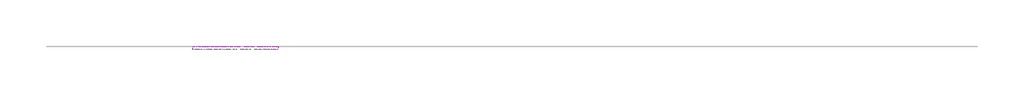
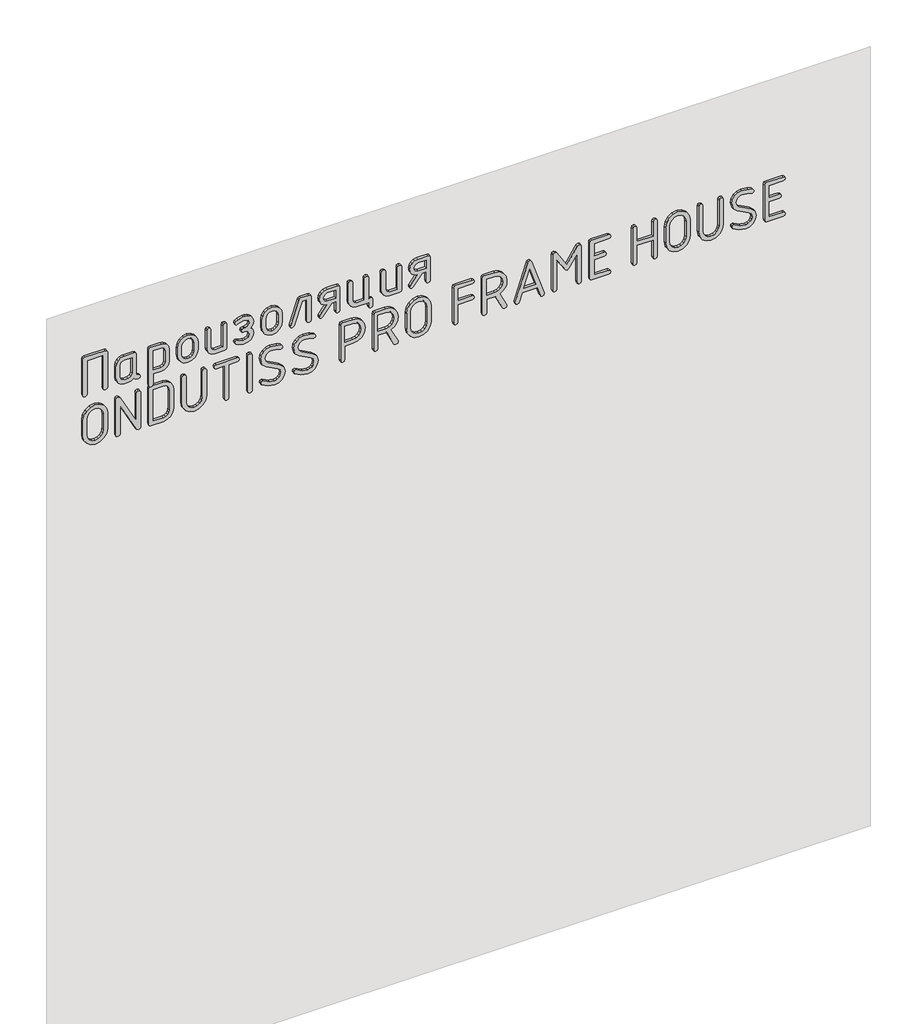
# One storey, part 29 of 42: 1 proxy.
"""IFC4 building model written with IfcOpenShell, lengths in millimetres."""

from ifc_helpers import new_model, si_unit, frame, origin, place, context, project, spatial, polyline, outline, extrude, element, save

model = new_model("IFC4")

# Units and contexts
model_context = context("Model", 3, world=origin())
ifc_project = project(units=[si_unit("LENGTHUNIT", "METRE", prefix="MILLI")], contexts=[model_context])

# Site, building, storey
site = spatial("IfcSite", under=ifc_project)
building = spatial("IfcBuilding", under=site)
storey = spatial("IfcBuildingStorey", under=building, Name="Этаж 01", Elevation=0.0)

# Proxy
placement = place(None, origin())
element("IfcBuildingElementProxy", 1, Name="150 мм GOST Common", ObjectType="150 мм GOST Common", at=placement, inside=storey, context=model_context, shape_type="SweptSolid", body=[
    extrude(outline(polyline([(2813.534126, -10703.1472358), (2811.6464128, -10708.750448), (2805.9832732, -10710.6181854), (2670.2277293, -10710.6181854), (2664.5645897, -10708.7005085), (2662.6768765, -10702.9474778), (2664.5546018, -10697.1944471), (2670.1877777, -10695.2767702), (2798.1927108, -10695.2767702), (2798.1927108, -10636.468012), (2670.1877777, -10636.468012), (2664.5546018, -10634.5503351), (2662.6768765, -10628.7973044), (2664.5645897, -10623.0442737), (2670.2277293, -10621.1265968), (2805.9832732, -10621.1265968), (2811.6464128, -10622.9943342), (2813.534126, -10628.5975464), (2813.534126, -10703.1472358)])), frame((0.0, -27838.3929597, 0.0), z_axis=(0.0, 1.0, 0.0), x_axis=(0.0, 0.0, 1.0)), (0.0, 0.0, 1.0), 10.0),
    extrude(outline(polyline([(2670.1478261, -10501.3117421), (2675.781002, -10503.1844735), (2677.6587273, -10508.8026675), (2679.5264647, -10514.4208616), (2685.1296769, -10516.2935929), (2760.0389308, -10516.2935929), (2765.642143, -10518.1513424), (2767.5098804, -10523.7245909), (2767.5098804, -10560.7996776), (2765.342506, -10572.2957511), (2758.8403827, -10581.8541719), (2749.1820829, -10588.2963678), (2737.5461788, -10590.4437664), (2692.6405781, -10590.4437664), (2681.004674, -10588.2963678), (2671.3463742, -10581.8541719), (2664.8442509, -10572.2957511), (2662.6768765, -10560.7996776), (2662.6768765, -10545.9376817), (2664.6644687, -10534.960979), (2670.6272453, -10525.8420258), (2664.6644687, -10518.2612093), (2662.6768765, -10508.7826917), (2664.5446139, -10503.1794795), (2670.1478261, -10501.3117421)]), holes=[polyline([(2752.1684652, -10531.6350081), (2692.8403361, -10531.6350081), (2682.3530405, -10535.8698779), (2678.0182917, -10546.1374397), (2678.0182917, -10560.5999196), (2682.3929921, -10570.8275298), (2692.8403361, -10575.1023512), (2737.3464208, -10575.1023512), (2747.8337163, -10570.8674814), (2752.1684652, -10560.5999196), (2752.1684652, -10531.6350081)])]), frame((0.0, -27838.3929597, 0.0), z_axis=(0.0, 1.0, 0.0), x_axis=(0.0, 0.0, 1.0)), (0.0, 0.0, 1.0), 10.0),
    extrude(outline(polyline([(2759.9590276, -10470.2693473), (2624.2034837, -10470.2693473), (2618.5403441, -10468.3516704), (2616.6526309, -10462.5986397), (2618.5703078, -10456.845609), (2624.3233385, -10454.9279321), (2662.6768765, -10454.9279321), (2662.6768765, -10425.523553), (2664.8592328, -10414.1323525), (2671.4063016, -10404.6488409), (2681.0795832, -10398.2515906), (2692.6405781, -10396.1191739), (2737.5461788, -10396.1191739), (2749.1820829, -10398.2665725), (2758.8403827, -10404.7087683), (2765.342506, -10414.2671891), (2767.5098804, -10425.7632626), (2767.5098804, -10462.8383493), (2765.6221672, -10468.4115978), (2759.9590276, -10470.2693473)]), holes=[polyline([(2752.1684652, -10454.9279321), (2752.1684652, -10425.9630206), (2747.8936437, -10415.6355315), (2737.3464208, -10411.4605891), (2692.8403361, -10411.4605891), (2682.3530405, -10415.6954589), (2678.0182917, -10425.9630206), (2678.0182917, -10454.9279321), (2752.1684652, -10454.9279321)])]), frame((0.0, -27838.3929597, 0.0), z_axis=(0.0, 1.0, 0.0), x_axis=(0.0, 0.0, 1.0)), (0.0, 0.0, 1.0), 10.0),
    extrude(outline(polyline([(2700.1115277, -10365.4363435), (2685.718963, -10362.7246285), (2673.6236155, -10354.5894835), (2665.4135613, -10342.6089968), (2662.6768765, -10328.3612568), (2665.4135613, -10314.1135167), (2673.6236155, -10302.13303), (2685.718963, -10293.997885), (2700.1115277, -10291.28617), (2730.0752292, -10291.28617), (2744.6176124, -10293.9679213), (2756.6829962, -10302.0131752), (2764.8031593, -10313.9636982), (2767.5098804, -10328.3612568), (2764.7731956, -10342.6089968), (2756.5631414, -10354.5894835), (2744.4677939, -10362.7246285), (2730.0752292, -10365.4363435), (2700.1115277, -10365.4363435)]), holes=[polyline([(2700.5509953, -10306.6275852), (2691.8914855, -10308.2206554), (2684.6103061, -10312.9998658), (2679.6662953, -10320.0263538), (2678.0182917, -10328.3612568), (2679.6563074, -10336.771069), (2684.5703545, -10343.7825752), (2691.841546, -10348.51684), (2700.5509953, -10350.0949283), (2730.5546484, -10350.0949283), (2739.1841945, -10348.5018582), (2746.4553861, -10343.7226478), (2751.3993968, -10336.6961597), (2753.0474004, -10328.3612568), (2751.3993968, -10320.0263538), (2746.4553861, -10312.9998658), (2739.1841945, -10308.2206554), (2730.5546484, -10306.6275852), (2700.5509953, -10306.6275852)])]), frame((0.0, -27838.3929597, 0.0), z_axis=(0.0, 1.0, 0.0), x_axis=(0.0, 0.0, 1.0)), (0.0, 0.0, 1.0), 10.0),
    extrude(outline(polyline([(2760.0389308, -10186.4531662), (2765.642143, -10188.3708431), (2767.5098804, -10194.1238738), (2765.642143, -10199.8769045), (2760.0389308, -10201.7945814), (2678.0182917, -10201.7945814), (2678.0182917, -10230.7594929), (2682.4329437, -10240.987103), (2692.9202393, -10245.2619244), (2760.0389308, -10245.2619244), (2765.642143, -10247.1796013), (2767.5098804, -10252.932632), (2765.642143, -10258.6856627), (2760.0389308, -10260.6033396), (2692.6405781, -10260.6033396), (2681.004674, -10258.455941), (2671.3463742, -10252.0137452), (2664.8442509, -10242.4553244), (2662.6768765, -10230.9592509), (2662.6768765, -10193.8841642), (2664.5446139, -10188.3109157), (2670.1478261, -10186.4531662), (2760.0389308, -10186.4531662)])), frame((0.0, -27838.3929597, 0.0), z_axis=(0.0, 1.0, 0.0), x_axis=(0.0, 0.0, 1.0)), (0.0, 0.0, 1.0), 10.0),
    extrude(outline(polyline([(2693.3996585, -10104.6322851), (2682.5128469, -10109.0069856), (2678.0182917, -10119.6540875), (2678.0182917, -10127.1649887), (2681.8336697, -10142.2067669), (2685.6490477, -10151.335708), (2682.9323388, -10155.450723), (2677.6587273, -10157.1686419), (2671.7059386, -10154.1223322), (2666.6320851, -10144.9834032), (2662.6768765, -10127.1649887), (2662.6768765, -10119.6540875), (2664.8991844, -10107.9682439), (2671.566108, -10098.1601256), (2681.4591234, -10091.5081838), (2693.3597069, -10089.2908699), (2707.1829612, -10091.9376636), (2716.3718297, -10099.8780445), (2725.0113637, -10091.9376636), (2738.3052592, -10089.2908699), (2749.6215505, -10091.5081838), (2759.0401407, -10098.1601256), (2765.3924455, -10107.9682439), (2767.5098804, -10119.6540875), (2767.5098804, -10127.1649887), (2763.434817, -10144.8635484), (2758.2710724, -10154.0923685), (2752.5280296, -10157.1686419), (2747.2743939, -10155.450723), (2744.5377092, -10151.4555628), (2748.3530872, -10142.5463555), (2752.1684652, -10127.1649887), (2752.1684652, -10119.6540875), (2748.1133776, -10108.967034), (2738.1055012, -10104.6322851), (2728.0976249, -10108.6673969), (2724.0425373, -10120.3332647), (2724.0425373, -10122.7303609), (2724.0425373, -10125.0076022), (2721.7852718, -10132.4186244), (2716.3318781, -10134.6359383), (2710.8984602, -10132.4785518), (2708.7011221, -10127.1649887), (2708.7011221, -10117.496701), (2704.7459135, -10108.6274453), (2693.3996585, -10104.6322851)])), frame((0.0, -27838.3929597, 0.0), z_axis=(0.0, 1.0, 0.0), x_axis=(0.0, 0.0, 1.0)), (0.0, 0.0, 1.0), 10.0),
    extrude(outline(polyline([(2700.1115277, -10058.6080395), (2685.718963, -10055.8963245), (2673.6236155, -10047.7611796), (2665.4135613, -10035.7806929), (2662.6768765, -10021.5329528), (2665.4135613, -10007.2852127), (2673.6236155, -9995.304726), (2685.718963, -9987.1695811), (2700.1115277, -9984.4578661), (2730.0752292, -9984.4578661), (2744.6176124, -9987.1396174), (2756.6829962, -9995.1848712), (2764.8031593, -10007.1353942), (2767.5098804, -10021.5329528), (2764.7731956, -10035.7806929), (2756.5631414, -10047.7611796), (2744.4677939, -10055.8963245), (2730.0752292, -10058.6080395), (2700.1115277, -10058.6080395)]), holes=[polyline([(2700.5509953, -9999.7992813), (2691.8914855, -10001.3923514), (2684.6103061, -10006.1715618), (2679.6662953, -10013.1980498), (2678.0182917, -10021.5329528), (2679.6563074, -10029.942765), (2684.5703545, -10036.9542712), (2691.841546, -10041.6885361), (2700.5509953, -10043.2666243), (2730.5546484, -10043.2666243), (2739.1841945, -10041.6735542), (2746.4553861, -10036.8943438), (2751.3993968, -10029.8678558), (2753.0474004, -10021.5329528), (2751.3993968, -10013.1980498), (2746.4553861, -10006.1715618), (2739.1841945, -10001.3923514), (2730.5546484, -9999.7992813), (2700.5509953, -9999.7992813)])]), frame((0.0, -27838.3929597, 0.0), z_axis=(0.0, 1.0, 0.0), x_axis=(0.0, 0.0, 1.0)), (0.0, 0.0, 1.0), 10.0),
    extrude(outline(polyline([(2767.5098804, -9917.4590294), (2765.9817316, -9922.0534636), (2761.3972852, -9924.9699306), (2672.5449222, -9954.6140193), (2670.2676809, -9954.9735837), (2664.5745776, -9953.0958584), (2662.6768765, -9947.4626826), (2667.75073, -9940.391249), (2752.1684652, -9912.1055147), (2752.1684652, -9894.9662774), (2670.1478261, -9894.9662774), (2664.5446139, -9893.0486005), (2662.6768765, -9887.2955698), (2664.5446139, -9881.5425391), (2670.1478261, -9879.6248622), (2760.0389308, -9879.6248622), (2765.642143, -9881.5425391), (2767.5098804, -9887.2955698), (2767.5098804, -9917.4590294)])), frame((0.0, -27838.3929597, 0.0), z_axis=(0.0, 1.0, 0.0), x_axis=(0.0, 0.0, 1.0)), (0.0, 0.0, 1.0), 10.0),
    extrude(outline(polyline([(2707.8221869, -9823.4129581), (2674.7023087, -9848.6623706), (2670.1478261, -9850.1405799), (2664.5446139, -9848.2628546), (2662.6768765, -9842.6296787), (2665.7531499, -9836.5969868), (2707.6623805, -9805.354834), (2707.6623805, -9790.1332736), (2670.1877777, -9790.1332736), (2664.5546018, -9788.2155967), (2662.6768765, -9782.462566), (2664.5446139, -9776.7095353), (2670.1478261, -9774.7918584), (2760.0389308, -9774.7918584), (2765.642143, -9776.7095353), (2767.5098804, -9782.462566), (2767.5098804, -9820.1369267), (2765.342506, -9831.752855), (2758.8403827, -9841.4311306), (2749.1820829, -9847.9632176), (2737.5461788, -9850.1405799), (2726.784216, -9848.2478727), (2717.5903536, -9842.5697513), (2710.9434058, -9833.9951387), (2707.8221869, -9823.4129581)]), holes=[polyline([(2737.1466628, -9835.1187775), (2747.7937647, -9830.7440771), (2752.1684652, -9820.1369267), (2752.1684652, -9790.1332736), (2722.164812, -9790.1332736), (2722.164812, -9820.1369267), (2726.5994398, -9830.6841497), (2737.1466628, -9835.1187775)])]), frame((0.0, -27838.3929597, 0.0), z_axis=(0.0, 1.0, 0.0), x_axis=(0.0, 0.0, 1.0)), (0.0, 0.0, 1.0), 10.0),
    extrude(outline(polyline([(2678.0182917, -9662.2881469), (2678.0182917, -9669.9588545), (2760.0389308, -9669.9588545), (2765.642143, -9671.8765314), (2767.5098804, -9677.6295621), (2765.642143, -9683.3825928), (2760.0389308, -9685.3002697), (2678.0182917, -9685.3002697), (2678.0182917, -9714.2651812), (2682.4329437, -9724.4927914), (2692.9202393, -9728.7676128), (2760.0389308, -9728.7676128), (2765.642143, -9730.6852897), (2767.5098804, -9736.4383204), (2765.642143, -9742.1913511), (2760.0389308, -9744.109028), (2692.6405781, -9744.109028), (2681.0795832, -9741.9616294), (2671.4063016, -9735.5194335), (2664.8592328, -9725.9610127), (2662.6768765, -9714.4649392), (2662.6768765, -9669.9588545), (2647.3354613, -9669.9588545), (2641.5824306, -9668.0411776), (2639.6647537, -9662.2881469), (2641.5824306, -9656.5351162), (2647.3354613, -9654.6174393), (2670.3475841, -9654.6174393), (2676.1006148, -9656.5351162), (2678.0182917, -9662.2881469)])), frame((0.0, -27838.3929597, 0.0), z_axis=(0.0, 1.0, 0.0), x_axis=(0.0, 0.0, 1.0)), (0.0, 0.0, 1.0), 10.0),
    extrude(outline(polyline([(2760.0389308, -9549.7844355), (2765.642143, -9551.7021124), (2767.5098804, -9557.4551431), (2765.642143, -9563.2081738), (2760.0389308, -9565.1258507), (2678.0182917, -9565.1258507), (2678.0182917, -9594.0907622), (2682.4329437, -9604.3183723), (2692.9202393, -9608.5931937), (2760.0389308, -9608.5931937), (2765.642143, -9610.5108706), (2767.5098804, -9616.2639013), (2765.642143, -9622.016932), (2760.0389308, -9623.9346089), (2692.6405781, -9623.9346089), (2681.004674, -9621.7872103), (2671.3463742, -9615.3450145), (2664.8442509, -9605.7865937), (2662.6768765, -9594.2905202), (2662.6768765, -9557.2154335), (2664.5446139, -9551.642185), (2670.1478261, -9549.7844355), (2760.0389308, -9549.7844355)])), frame((0.0, -27838.3929597, 0.0), z_axis=(0.0, 1.0, 0.0), x_axis=(0.0, 0.0, 1.0)), (0.0, 0.0, 1.0), 10.0),
    extrude(outline(polyline([(2707.8221869, -9493.5725314), (2674.7023087, -9518.8219439), (2670.1478261, -9520.3001532), (2664.5446139, -9518.4224279), (2662.6768765, -9512.789252), (2665.7531499, -9506.75656), (2707.6623805, -9475.5144072), (2707.6623805, -9460.2928468), (2670.1877777, -9460.2928468), (2664.5546018, -9458.3751699), (2662.6768765, -9452.6221392), (2664.5446139, -9446.8691085), (2670.1478261, -9444.9514316), (2760.0389308, -9444.9514316), (2765.642143, -9446.8691085), (2767.5098804, -9452.6221392), (2767.5098804, -9490.2965), (2765.342506, -9501.9124283), (2758.8403827, -9511.5907039), (2749.1820829, -9518.1227908), (2737.5461788, -9520.3001532), (2726.784216, -9518.407446), (2717.5903536, -9512.7293246), (2710.9434058, -9504.154712), (2707.8221869, -9493.5725314)]), holes=[polyline([(2737.1466628, -9505.2783508), (2747.7937647, -9500.9036503), (2752.1684652, -9490.2965), (2752.1684652, -9460.2928468), (2722.164812, -9460.2928468), (2722.164812, -9490.2965), (2726.5994398, -9500.8437229), (2737.1466628, -9505.2783508)])]), frame((0.0, -27838.3929597, 0.0), z_axis=(0.0, 1.0, 0.0), x_axis=(0.0, 0.0, 1.0)), (0.0, 0.0, 1.0), 10.0),
    extrude(outline(polyline([(2511.9177961, -10621.1265968), (2572.2447152, -10621.1265968), (2589.6885835, -10624.3876463), (2604.3058759, -10634.1707949), (2614.2088792, -10648.618293), (2617.5098804, -10665.8723911), (2614.1938974, -10683.05158), (2604.2459485, -10697.5140599), (2589.6136742, -10707.3421541), (2572.2447152, -10710.6181854), (2511.9177961, -10710.6181854), (2494.5488371, -10707.3421541), (2479.9165628, -10697.5140599), (2469.9686139, -10683.05158), (2466.6526309, -10665.8723911), (2469.9686139, -10648.6932022), (2479.9165628, -10634.2307223), (2494.5488371, -10624.4026281), (2511.9177961, -10621.1265968)]), holes=[polyline([(2512.0376509, -10636.468012), (2500.3917589, -10638.6004287), (2490.7034954, -10644.997679), (2484.1714084, -10654.4811906), (2481.9940461, -10665.8723911), (2484.1714084, -10677.2635916), (2490.7034954, -10686.7471032), (2500.3917589, -10693.1443535), (2512.0376509, -10695.2767702), (2572.1248604, -10695.2767702), (2583.7707524, -10693.1443535), (2593.4590159, -10686.7471032), (2599.9911029, -10677.2635916), (2602.1684652, -10665.8723911), (2599.9911029, -10654.4811906), (2593.4590159, -10644.997679), (2583.7707524, -10638.6004287), (2572.1248604, -10636.468012), (2512.0376509, -10636.468012)])]), frame((0.0, -27838.3929597, 0.0), z_axis=(0.0, 1.0, 0.0), x_axis=(0.0, 0.0, 1.0)), (0.0, 0.0, 1.0), 10.0),
    extrude(outline(polyline([(2503.3282016, -10516.2935929), (2613.0353009, -10575.1023512), (2617.5098804, -10582.453446), (2615.6221672, -10588.4461863), (2609.9590276, -10590.4437664), (2474.2034837, -10590.4437664), (2468.5403441, -10588.5260895), (2466.6526309, -10582.7730588), (2468.5403441, -10577.0200281), (2474.2034837, -10575.1023512), (2580.9541645, -10575.1023512), (2470.4080815, -10516.2935929), (2466.6526309, -10509.1023046), (2468.5403441, -10502.9897094), (2474.2034837, -10500.9521777), (2609.9590276, -10500.9521777), (2615.6221672, -10502.8698546), (2617.5098804, -10508.6228853), (2615.6221672, -10514.375916), (2609.9590276, -10516.2935929), (2503.3282016, -10516.2935929)])), frame((0.0, -27838.3929597, 0.0), z_axis=(0.0, 1.0, 0.0), x_axis=(0.0, 0.0, 1.0)), (0.0, 0.0, 1.0), 10.0),
    extrude(outline(polyline([(2609.9590276, -10470.2693473), (2474.2034837, -10470.2693473), (2468.5403441, -10468.4016099), (2466.6526309, -10462.7983977), (2466.6526309, -10418.0526034), (2469.4092915, -10403.7299541), (2477.6792731, -10391.684546), (2489.8645117, -10383.5044555), (2504.3669433, -10380.7777587), (2579.795568, -10380.7777587), (2594.4478181, -10383.4744918), (2606.603093, -10391.5646912), (2614.7831835, -10403.5801356), (2617.5098804, -10418.0526034), (2617.5098804, -10462.7983977), (2615.6221672, -10468.4016099), (2609.9590276, -10470.2693473)]), holes=[polyline([(2602.1684652, -10454.9279321), (2602.1684652, -10418.1724582), (2600.5204616, -10409.6977246), (2595.5764508, -10402.5713576), (2588.2952713, -10397.7322198), (2579.6357616, -10396.1191739), (2504.5267497, -10396.1191739), (2495.8672399, -10397.7322198), (2488.5860605, -10402.5713576), (2483.6420497, -10409.6977246), (2481.9940461, -10418.1724582), (2481.9940461, -10454.9279321), (2602.1684652, -10454.9279321)])]), frame((0.0, -27838.3929597, 0.0), z_axis=(0.0, 1.0, 0.0), x_axis=(0.0, 0.0, 1.0)), (0.0, 0.0, 1.0), 10.0),
    extrude(outline(polyline([(2609.9590276, -10260.6033396), (2615.6221672, -10262.5210165), (2617.5098804, -10268.2740472), (2615.6321551, -10274.0270779), (2609.9989792, -10275.9447548), (2512.1175541, -10275.9447548), (2500.4367044, -10278.0771716), (2490.7234712, -10284.4744219), (2484.1764024, -10293.9579334), (2481.9940461, -10305.349134), (2484.1764024, -10316.7403345), (2490.7234712, -10326.223846), (2500.4367044, -10332.6210963), (2512.1175541, -10334.7535131), (2609.9989792, -10334.7535131), (2615.6321551, -10336.67119), (2617.5098804, -10342.4242207), (2615.6221672, -10348.1772514), (2609.9590276, -10350.0949283), (2511.9177961, -10350.0949283), (2494.5488371, -10346.8188969), (2479.9165628, -10336.9908028), (2469.9686139, -10322.5283229), (2466.6526309, -10305.349134), (2469.9686139, -10288.1699451), (2479.9165628, -10273.7074651), (2494.5488371, -10263.879371), (2511.9177961, -10260.6033396), (2609.9590276, -10260.6033396)])), frame((0.0, -27838.3929597, 0.0), z_axis=(0.0, 1.0, 0.0), x_axis=(0.0, 0.0, 1.0)), (0.0, 0.0, 1.0), 10.0),
    extrude(outline(polyline([(2609.8391728, -10231.6384281), (2604.0861421, -10229.7607028), (2602.1684652, -10224.1275269), (2602.1684652, -10194.1238738), (2474.1635321, -10194.1238738), (2468.5303562, -10192.2061969), (2466.6526309, -10186.4531662), (2468.5303562, -10180.7001355), (2474.1635321, -10178.7824586), (2602.1684652, -10178.7824586), (2602.1684652, -10148.7788054), (2604.0861421, -10143.1755932), (2609.8391728, -10141.3078558), (2615.5922035, -10143.1755932), (2617.5098804, -10148.7788054), (2617.5098804, -10224.1275269), (2615.5922035, -10229.7607028), (2609.8391728, -10231.6384281)])), frame((0.0, -27838.3929597, 0.0), z_axis=(0.0, 1.0, 0.0), x_axis=(0.0, 0.0, 1.0)), (0.0, 0.0, 1.0), 10.0),
    extrude(outline(polyline([(2466.6526309, -10102.0753826), (2468.5403441, -10096.3223519), (2474.2034837, -10094.404675), (2609.9590276, -10094.404675), (2615.6221672, -10096.3223519), (2617.5098804, -10102.0753826), (2615.6221672, -10107.8284133), (2609.9590276, -10109.7460902), (2474.2034837, -10109.7460902), (2468.5403441, -10107.8284133), (2466.6526309, -10102.0753826)])), frame((0.0, -27838.3929597, 0.0), z_axis=(0.0, 1.0, 0.0), x_axis=(0.0, 0.0, 1.0)), (0.0, 0.0, 1.0), 10.0),
    extrude(outline(polyline([(2504.2870401, -9974.2302559), (2524.1429863, -9979.3140973), (2537.8463858, -9994.5656214), (2559.5001542, -10036.2351424), (2567.6602689, -10045.3441076), (2579.59581, -10048.3804294), (2588.2603137, -10046.7673835), (2595.556475, -10041.9282457), (2600.5154676, -10034.8018786), (2602.1684652, -10026.3271451), (2600.4904979, -10009.567448), (2595.456596, -9992.6878961), (2594.657564, -9989.5716711), (2596.8748779, -9984.2780839), (2602.1684652, -9982.06077), (2609.1599955, -9986.4953978), (2615.4224092, -10003.4648408), (2617.5098804, -10026.6467579), (2614.7432319, -10040.8195887), (2606.4432866, -10052.8150572), (2594.2680359, -10060.9951478), (2579.8754712, -10063.7218446), (2560.0494887, -10058.6979306), (2546.4359803, -10043.6261888), (2524.7822119, -10001.9167162), (2516.5322061, -9992.6579324), (2504.5667013, -9989.5716711), (2495.9021976, -9991.1996989), (2488.6060363, -9996.0837823), (2483.6470437, -10003.2750707), (2481.9940461, -10011.8247135), (2485.1901743, -10031.6007565), (2495.657494, -10052.0559768), (2497.0158485, -10056.2908466), (2494.7985346, -10061.5245065), (2489.5049473, -10063.7218446), (2483.3923522, -10060.4458132), (2470.8375612, -10037.5235815), (2466.6526309, -10011.5051007), (2469.4192794, -9997.2573606), (2477.7192247, -9985.1969707), (2489.8944754, -9976.9719346), (2504.2870401, -9974.2302559)])), frame((0.0, -27838.3929597, 0.0), z_axis=(0.0, 1.0, 0.0), x_axis=(0.0, 0.0, 1.0)), (0.0, 0.0, 1.0), 10.0),
    extrude(outline(polyline([(2504.2870401, -9854.0558369), (2524.1429863, -9859.1396783), (2537.8463858, -9874.3912024), (2559.5001542, -9916.0607233), (2567.6602689, -9925.1696886), (2579.59581, -9928.2060104), (2588.2603137, -9926.5929644), (2595.556475, -9921.7538266), (2600.5154676, -9914.6274596), (2602.1684652, -9906.152726), (2600.4904979, -9889.3930289), (2595.456596, -9872.5134771), (2594.657564, -9869.3972521), (2596.8748779, -9864.1036648), (2602.1684652, -9861.8863509), (2609.1599955, -9866.3209787), (2615.4224092, -9883.2904217), (2617.5098804, -9906.4723388), (2614.7432319, -9920.6451697), (2606.4432866, -9932.6406382), (2594.2680359, -9940.8207287), (2579.8754712, -9943.5474256), (2560.0494887, -9938.5235116), (2546.4359803, -9923.4517697), (2524.7822119, -9881.7422971), (2516.5322061, -9872.4835134), (2504.5667013, -9869.3972521), (2495.9021976, -9871.0252799), (2488.6060363, -9875.9093632), (2483.6470437, -9883.1006516), (2481.9940461, -9891.6502945), (2485.1901743, -9911.4263375), (2495.657494, -9931.8815577), (2497.0158485, -9936.1164276), (2494.7985346, -9941.3500874), (2489.5049473, -9943.5474256), (2483.3923522, -9940.2713942), (2470.8375612, -9917.3491625), (2466.6526309, -9891.3306816), (2469.4192794, -9877.0829415), (2477.7192247, -9865.0225517), (2489.8944754, -9856.7975156), (2504.2870401, -9854.0558369)])), frame((0.0, -27838.3929597, 0.0), z_axis=(0.0, 1.0, 0.0), x_axis=(0.0, 0.0, 1.0)), (0.0, 0.0, 1.0), 10.0),
    extrude(outline(polyline([(2617.5098804, -9764.7640063), (2615.6221672, -9770.3672185), (2609.9590276, -9772.2349558), (2474.2034837, -9772.2349558), (2468.5403441, -9770.3172789), (2466.6526309, -9764.5642482), (2468.4904046, -9758.8112175), (2474.0037257, -9756.8935406), (2525.4613892, -9756.8935406), (2525.4613892, -9727.2494519), (2528.6575173, -9709.3261644), (2538.2459018, -9695.108388), (2552.9480914, -9685.8346224), (2571.4856348, -9682.7433672), (2589.2241461, -9686.0044167), (2604.0861421, -9695.7875653), (2614.1539458, -9710.2350634), (2617.5098804, -9727.4891615), (2617.5098804, -9764.7640063)]), holes=[polyline([(2602.1684652, -9756.8935406), (2602.1684652, -9727.4891615), (2599.9461573, -9716.097961), (2593.2792337, -9706.6144494), (2583.3862182, -9700.2171992), (2571.4856348, -9698.0847824), (2559.5850513, -9700.2171992), (2549.6920358, -9706.6144494), (2543.0251122, -9716.097961), (2540.8028044, -9727.4891615), (2540.8028044, -9756.8935406), (2602.1684652, -9756.8935406)])]), frame((0.0, -27838.3929597, 0.0), z_axis=(0.0, 1.0, 0.0), x_axis=(0.0, 0.0, 1.0)), (0.0, 0.0, 1.0), 10.0),
    extrude(outline(polyline([(2530.1756782, -9588.7372475), (2536.8800565, -9577.2886165), (2546.1263554, -9569.111023), (2557.9145749, -9564.2044669), (2572.2447152, -9562.5689481), (2589.6885835, -9565.8299977), (2604.3058759, -9575.6131462), (2614.2088792, -9590.0606443), (2617.5098804, -9607.3147425), (2617.5098804, -9644.5895872), (2615.6221672, -9650.1927994), (2609.9590276, -9652.0605368), (2474.2034837, -9652.0605368), (2468.5403441, -9650.1428599), (2466.6526309, -9644.3898292), (2468.4904046, -9638.6367985), (2474.0037257, -9636.7191216), (2525.4613892, -9636.7191216), (2525.4613892, -9607.6343553), (2525.581244, -9604.9975496), (2470.7676459, -9577.9103633), (2466.6526309, -9570.5992202), (2468.9298722, -9565.0059959), (2474.2034837, -9562.5689481), (2477.6393215, -9562.5689481), (2530.1756782, -9588.7372475)]), holes=[polyline([(2602.1684652, -9636.7191216), (2602.1684652, -9607.3147425), (2599.9461573, -9595.9235419), (2593.2792337, -9586.4400304), (2583.3862182, -9580.0427801), (2571.4856348, -9577.9103633), (2559.5850513, -9580.0427801), (2549.6920358, -9586.4400304), (2543.0251122, -9595.9235419), (2540.8028044, -9607.3147425), (2540.8028044, -9636.7191216), (2602.1684652, -9636.7191216)])]), frame((0.0, -27838.3929597, 0.0), z_axis=(0.0, 1.0, 0.0), x_axis=(0.0, 0.0, 1.0)), (0.0, 0.0, 1.0), 10.0),
    extrude(outline(polyline([(2511.9177961, -9442.3945291), (2572.2447152, -9442.3945291), (2589.6885835, -9445.6555786), (2604.3058759, -9455.4387272), (2614.2088792, -9469.8862253), (2617.5098804, -9487.1403234), (2614.1938974, -9504.3195123), (2604.2459485, -9518.7819923), (2589.6136742, -9528.6100864), (2572.2447152, -9531.8861178), (2511.9177961, -9531.8861178), (2494.5488371, -9528.6100864), (2479.9165628, -9518.7819923), (2469.9686139, -9504.3195123), (2466.6526309, -9487.1403234), (2469.9686139, -9469.9611345), (2479.9165628, -9455.4986546), (2494.5488371, -9445.6705605), (2511.9177961, -9442.3945291)]), holes=[polyline([(2512.0376509, -9457.7359443), (2500.3917589, -9459.8683611), (2490.7034954, -9466.2656113), (2484.1714084, -9475.7491229), (2481.9940461, -9487.1403234), (2484.1714084, -9498.531524), (2490.7034954, -9508.0150355), (2500.3917589, -9514.4122858), (2512.0376509, -9516.5447026), (2572.1248604, -9516.5447026), (2583.7707524, -9514.4122858), (2593.4590159, -9508.0150355), (2599.9911029, -9498.531524), (2602.1684652, -9487.1403234), (2599.9911029, -9475.7491229), (2593.4590159, -9466.2656113), (2583.7707524, -9459.8683611), (2572.1248604, -9457.7359443), (2512.0376509, -9457.7359443)])]), frame((0.0, -27838.3929597, 0.0), z_axis=(0.0, 1.0, 0.0), x_axis=(0.0, 0.0, 1.0)), (0.0, 0.0, 1.0), 10.0),
    extrude(outline(polyline([(2474.2034837, -9360.573648), (2468.5403441, -9358.6559711), (2466.6526309, -9352.9029404), (2468.5103804, -9347.1499097), (2474.0836289, -9345.2322328), (2540.8028044, -9345.2322328), (2540.8028044, -9292.7358277), (2542.7204813, -9287.1026518), (2548.473512, -9285.2249265), (2554.2265427, -9287.1026518), (2556.1442196, -9292.7358277), (2556.1442196, -9345.2322328), (2602.1684652, -9345.2322328), (2602.1684652, -9292.7358277), (2604.0861421, -9287.1026518), (2609.8391728, -9285.2249265), (2615.5922035, -9287.1026518), (2617.5098804, -9292.7358277), (2617.5098804, -9352.9029404), (2615.6221672, -9358.6559711), (2609.9590276, -9360.573648), (2474.2034837, -9360.573648)])), frame((0.0, -27838.3929597, 0.0), z_axis=(0.0, 1.0, 0.0), x_axis=(0.0, 0.0, 1.0)), (0.0, 0.0, 1.0), 10.0),
    extrude(outline(polyline([(2530.1756782, -9192.4173549), (2536.8800565, -9180.9687239), (2546.1263554, -9172.7911304), (2557.9145749, -9167.8845743), (2572.2447152, -9166.2490555), (2589.6885835, -9169.5101051), (2604.3058759, -9179.2932536), (2614.2088792, -9193.7407517), (2617.5098804, -9210.9948499), (2617.5098804, -9248.2696946), (2615.6221672, -9253.8729068), (2609.9590276, -9255.7406442), (2474.2034837, -9255.7406442), (2468.5403441, -9253.8229673), (2466.6526309, -9248.0699366), (2468.4904046, -9242.3169059), (2474.0037257, -9240.399229), (2525.4613892, -9240.399229), (2525.4613892, -9211.3144627), (2525.581244, -9208.677657), (2470.7676459, -9181.5904707), (2466.6526309, -9174.2793276), (2468.9298722, -9168.6861033), (2474.2034837, -9166.2490555), (2477.6393215, -9166.2490555), (2530.1756782, -9192.4173549)]), holes=[polyline([(2602.1684652, -9240.399229), (2602.1684652, -9210.9948499), (2599.9461573, -9199.6036493), (2593.2792337, -9190.1201378), (2583.3862182, -9183.7228875), (2571.4856348, -9181.5904707), (2559.5850513, -9183.7228875), (2549.6920358, -9190.1201378), (2543.0251122, -9199.6036493), (2540.8028044, -9210.9948499), (2540.8028044, -9240.399229), (2602.1684652, -9240.399229)])]), frame((0.0, -27838.3929597, 0.0), z_axis=(0.0, 1.0, 0.0), x_axis=(0.0, 0.0, 1.0)), (0.0, 0.0, 1.0), 10.0),
    extrude(outline(polyline([(2474.2034837, -9030.8930277), (2476.6005798, -9031.2525921), (2611.6769465, -9076.0383381), (2616.0516469, -9078.8349502), (2617.5098804, -9083.3894328), (2615.9917195, -9088.0038429), (2611.4372369, -9090.900334), (2476.6005798, -9135.5662252), (2474.2034837, -9135.9257896), (2468.5403441, -9134.0480643), (2466.6526309, -9128.4148884), (2467.9610459, -9123.8903694), (2471.8862908, -9121.2635516), (2505.0061689, -9110.4366674), (2505.0061689, -9056.3421982), (2471.8862908, -9045.5552657), (2467.9610459, -9042.9284478), (2466.6526309, -9038.4039289), (2468.5403441, -9032.770753), (2474.2034837, -9030.8930277)]), holes=[polyline([(2586.5074372, -9083.3894328), (2520.3475841, -9061.3761001), (2520.3475841, -9105.4427172), (2586.5074372, -9083.3894328)])]), frame((0.0, -27838.3929597, 0.0), z_axis=(0.0, 1.0, 0.0), x_axis=(0.0, 0.0, 1.0)), (0.0, 0.0, 1.0), 10.0),
    extrude(outline(polyline([(2617.5098804, -8903.5273203), (2614.1938974, -8910.5588023), (2555.7846552, -8947.7537438), (2613.7544298, -8984.7089757), (2617.5098804, -8991.9002641), (2615.6221672, -8998.0128592), (2609.9590276, -9000.0503909), (2474.2034837, -9000.0503909), (2468.5403441, -8998.132714), (2466.6526309, -8992.3796833), (2468.5403441, -8986.6266526), (2474.2034837, -8984.7089757), (2585.1490827, -8984.7089757), (2539.3245951, -8954.5854677), (2534.8100641, -8947.633889), (2539.3245951, -8940.7622134), (2585.1490827, -8910.5588023), (2474.2034837, -8910.5588023), (2468.5403441, -8908.6411254), (2466.6526309, -8902.8880947), (2468.5403441, -8897.135064), (2474.2034837, -8895.2173871), (2609.9590276, -8895.2173871), (2615.6221672, -8897.2948704), (2617.5098804, -8903.5273203)])), frame((0.0, -27838.3929597, 0.0), z_axis=(0.0, 1.0, 0.0), x_axis=(0.0, 0.0, 1.0)), (0.0, 0.0, 1.0), 10.0),
    extrude(outline(polyline([(2474.2034837, -8864.5345567), (2468.5403441, -8862.6168798), (2466.6526309, -8856.8638491), (2466.6526309, -8796.6967363), (2468.5703078, -8791.0635604), (2474.3233385, -8789.1858351), (2480.0763692, -8791.0635604), (2481.9940461, -8796.6967363), (2481.9940461, -8849.1931415), (2540.8028044, -8849.1931415), (2540.8028044, -8811.6785871), (2542.7204813, -8806.0753749), (2548.473512, -8804.2076375), (2554.2265427, -8806.0753749), (2556.1442196, -8811.6785871), (2556.1442196, -8849.1931415), (2602.1684652, -8849.1931415), (2602.1684652, -8796.6967363), (2604.0861421, -8791.0635604), (2609.8391728, -8789.1858351), (2615.5922035, -8791.0635604), (2617.5098804, -8796.6967363), (2617.5098804, -8856.8638491), (2615.6221672, -8862.6168798), (2609.9590276, -8864.5345567), (2474.2034837, -8864.5345567)])), frame((0.0, -27838.3929597, 0.0), z_axis=(0.0, 1.0, 0.0), x_axis=(0.0, 0.0, 1.0)), (0.0, 0.0, 1.0), 10.0),
    extrude(outline(polyline([(2474.2034837, -8708.5635022), (2468.5403441, -8706.6458253), (2466.6526309, -8700.8927946), (2468.5103804, -8695.1397639), (2474.0836289, -8693.222087), (2540.8028044, -8693.222087), (2540.8028044, -8634.4133287), (2474.0836289, -8634.4133287), (2468.5103804, -8632.4956518), (2466.6526309, -8626.7426211), (2468.5403441, -8620.9895904), (2474.2034837, -8619.0719135), (2609.9590276, -8619.0719135), (2615.6221672, -8620.9895904), (2617.5098804, -8626.7426211), (2615.5922035, -8632.4956518), (2609.8391728, -8634.4133287), (2556.1442196, -8634.4133287), (2556.1442196, -8693.222087), (2609.8391728, -8693.222087), (2615.5922035, -8695.1397639), (2617.5098804, -8700.8927946), (2615.6221672, -8706.6458253), (2609.9590276, -8708.5635022), (2474.2034837, -8708.5635022)])), frame((0.0, -27838.3929597, 0.0), z_axis=(0.0, 1.0, 0.0), x_axis=(0.0, 0.0, 1.0)), (0.0, 0.0, 1.0), 10.0),
    extrude(outline(polyline([(2511.9177961, -8498.8974945), (2572.2447152, -8498.8974945), (2589.6885835, -8502.158544), (2604.3058759, -8511.9416925), (2614.2088792, -8526.3891906), (2617.5098804, -8543.6432888), (2614.1938974, -8560.8224777), (2604.2459485, -8575.2849576), (2589.6136742, -8585.1130517), (2572.2447152, -8588.3890831), (2511.9177961, -8588.3890831), (2494.5488371, -8585.1130517), (2479.9165628, -8575.2849576), (2469.9686139, -8560.8224777), (2466.6526309, -8543.6432888), (2469.9686139, -8526.4640999), (2479.9165628, -8512.0016199), (2494.5488371, -8502.1735258), (2511.9177961, -8498.8974945)]), holes=[polyline([(2512.0376509, -8514.2389097), (2500.3917589, -8516.3713264), (2490.7034954, -8522.7685767), (2484.1714084, -8532.2520882), (2481.9940461, -8543.6432888), (2484.1714084, -8555.0344893), (2490.7034954, -8564.5180009), (2500.3917589, -8570.9152511), (2512.0376509, -8573.0476679), (2572.1248604, -8573.0476679), (2583.7707524, -8570.9152511), (2593.4590159, -8564.5180009), (2599.9911029, -8555.0344893), (2602.1684652, -8543.6432888), (2599.9911029, -8532.2520882), (2593.4590159, -8522.7685767), (2583.7707524, -8516.3713264), (2572.1248604, -8514.2389097), (2512.0376509, -8514.2389097)])]), frame((0.0, -27838.3929597, 0.0), z_axis=(0.0, 1.0, 0.0), x_axis=(0.0, 0.0, 1.0)), (0.0, 0.0, 1.0), 10.0),
    extrude(outline(polyline([(2609.9590276, -8378.7230754), (2615.6221672, -8380.6407523), (2617.5098804, -8386.393783), (2615.6321551, -8392.1468137), (2609.9989792, -8394.0644906), (2512.1175541, -8394.0644906), (2500.4367044, -8396.1969074), (2490.7234712, -8402.5941576), (2484.1764024, -8412.0776692), (2481.9940461, -8423.4688697), (2484.1764024, -8434.8600703), (2490.7234712, -8444.3435818), (2500.4367044, -8450.7408321), (2512.1175541, -8452.8732489), (2609.9989792, -8452.8732489), (2615.6321551, -8454.7909258), (2617.5098804, -8460.5439565), (2615.6221672, -8466.2969872), (2609.9590276, -8468.2146641), (2511.9177961, -8468.2146641), (2494.5488371, -8464.9386327), (2479.9165628, -8455.1105386), (2469.9686139, -8440.6480586), (2466.6526309, -8423.4688697), (2469.9686139, -8406.2896808), (2479.9165628, -8391.8272009), (2494.5488371, -8381.9991068), (2511.9177961, -8378.7230754), (2609.9590276, -8378.7230754)])), frame((0.0, -27838.3929597, 0.0), z_axis=(0.0, 1.0, 0.0), x_axis=(0.0, 0.0, 1.0)), (0.0, 0.0, 1.0), 10.0),
    extrude(outline(polyline([(2504.2870401, -8258.5486564), (2524.1429863, -8263.6324977), (2537.8463858, -8278.8840218), (2559.5001542, -8320.5535428), (2567.6602689, -8329.6625081), (2579.59581, -8332.6988298), (2588.2603137, -8331.0857839), (2595.556475, -8326.2466461), (2600.5154676, -8319.1202791), (2602.1684652, -8310.6455455), (2600.4904979, -8293.8858484), (2595.456596, -8277.0062965), (2594.657564, -8273.8900716), (2596.8748779, -8268.5964843), (2602.1684652, -8266.3791704), (2609.1599955, -8270.8137982), (2615.4224092, -8287.7832412), (2617.5098804, -8310.9651583), (2614.7432319, -8325.1379891), (2606.4432866, -8337.1334576), (2594.2680359, -8345.3135482), (2579.8754712, -8348.040245), (2560.0494887, -8343.016331), (2546.4359803, -8327.9445892), (2524.7822119, -8286.2351166), (2516.5322061, -8276.9763328), (2504.5667013, -8273.8900716), (2495.9021976, -8275.5180993), (2488.6060363, -8280.4021827), (2483.6470437, -8287.5934711), (2481.9940461, -8296.1431139), (2485.1901743, -8315.9191569), (2495.657494, -8336.3743772), (2497.0158485, -8340.609247), (2494.7985346, -8345.8429069), (2489.5049473, -8348.040245), (2483.3923522, -8344.7642136), (2470.8375612, -8321.8419819), (2466.6526309, -8295.8235011), (2469.4192794, -8281.575761), (2477.7192247, -8269.5153711), (2489.8944754, -8261.2903351), (2504.2870401, -8258.5486564)])), frame((0.0, -27838.3929597, 0.0), z_axis=(0.0, 1.0, 0.0), x_axis=(0.0, 0.0, 1.0)), (0.0, 0.0, 1.0), 10.0),
    extrude(outline(polyline([(2474.2034837, -8227.865826), (2468.5403441, -8225.9481491), (2466.6526309, -8220.1951184), (2466.6526309, -8160.0280056), (2468.5703078, -8154.3948297), (2474.3233385, -8152.5171044), (2480.0763692, -8154.3948297), (2481.9940461, -8160.0280056), (2481.9940461, -8212.5244108), (2540.8028044, -8212.5244108), (2540.8028044, -8175.0098564), (2542.7204813, -8169.4066442), (2548.473512, -8167.5389068), (2554.2265427, -8169.4066442), (2556.1442196, -8175.0098564), (2556.1442196, -8212.5244108), (2602.1684652, -8212.5244108), (2602.1684652, -8160.0280056), (2604.0861421, -8154.3948297), (2609.8391728, -8152.5171044), (2615.5922035, -8154.3948297), (2617.5098804, -8160.0280056), (2617.5098804, -8220.1951184), (2615.6221672, -8225.9481491), (2609.9590276, -8227.865826), (2474.2034837, -8227.865826)])), frame((0.0, -27838.3929597, 0.0), z_axis=(0.0, 1.0, 0.0), x_axis=(0.0, 0.0, 1.0)), (0.0, 0.0, 1.0), 10.0),
])

save(model, "model.ifc")
